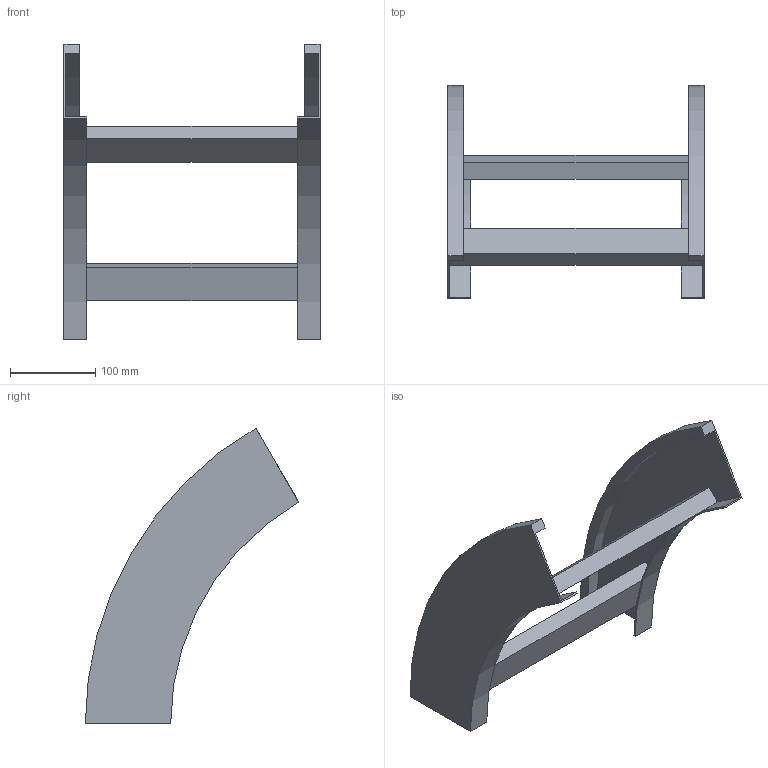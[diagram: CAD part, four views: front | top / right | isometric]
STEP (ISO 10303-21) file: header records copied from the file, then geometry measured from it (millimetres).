
FILE_DESCRIPTION (( 'STEP AP214' ), '1' );
FILE_NAME ('B2_41B3D300.step', '2025-02-21T14:57:08', ( '' ), ( '' ), 'SwSTEP 2.0', 'SolidWorks 2023', '' );
FILE_SCHEMA (( 'AUTOMOTIVE_DESIGN' ));
Length unit declared in the file: millimetre
Products named in the file (3): B2_41B3D300; B2_LONGH.DISCESA_60°_H100_R300; TRAVERSINO_300
Assembly tree (4 placements, depth 2):
  B2_41B3D300
    B2_LONGH.DISCESA_60°_H100_R300  x2
    TRAVERSINO_300  x2
Bounding box: 300 x 250 x 346.41 mm (x, y, z)
Volume: 816085.1 mm3; surface area: 284106.6 mm2
Topology: 4 solids, 4 shells, 32 faces, 72 edges, 48 vertices
Faces by surface type: plane 24, cylinder 8
Entity records: 552 total; most frequent: DIRECTION 90, CARTESIAN_POINT 83, ORIENTED_EDGE 72, EDGE_CURVE 36, AXIS2_PLACEMENT_3D 31, VECTOR 28, LINE 28, VERTEX_POINT 24
